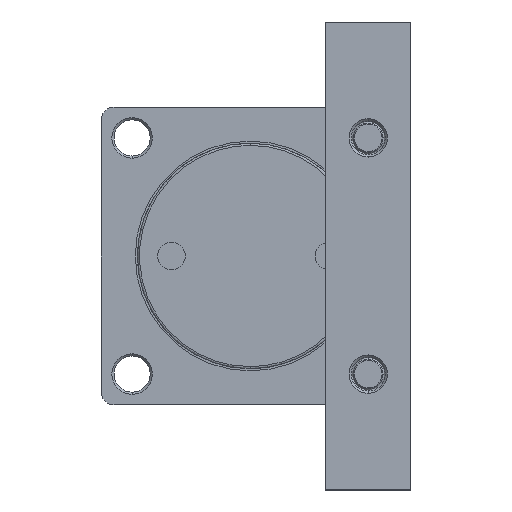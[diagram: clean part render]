
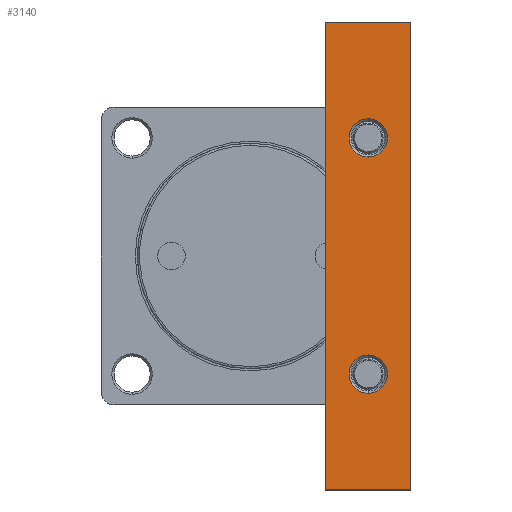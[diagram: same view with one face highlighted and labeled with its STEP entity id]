
A CAD part, left-side view. The second image highlights one B-rep face of the part: STEP entity #3140.
In plain terms, the highlighted planar face has unit normal (1, 0, 0).
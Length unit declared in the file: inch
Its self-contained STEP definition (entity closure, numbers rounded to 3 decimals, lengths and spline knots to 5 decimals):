
#58 = CARTESIAN_POINT ( 'NONE',  ( -2.61811, -2.18504, -1.83071 ) ) ;
#446 = VERTEX_POINT ( 'NONE', #11337 ) ;
#453 = ORIENTED_EDGE ( 'NONE', *, *, #5890, .T. ) ;
#1550 = CARTESIAN_POINT ( 'NONE',  ( -2.61811, -2.18504, 1.83071 ) ) ;
#2447 = VERTEX_POINT ( 'NONE', #58 ) ;
#2526 = AXIS2_PLACEMENT_3D ( 'NONE', #5507, #5439, #3763 ) ;
#2668 = CARTESIAN_POINT ( 'NONE',  ( -2.61811, -1.39764, 4.33071 ) ) ;
#2746 = FACE_BOUND ( 'NONE', #5233, .T. ) ;
#2847 = FACE_BOUND ( 'NONE', #5659, .T. ) ;
#2874 = FACE_OUTER_BOUND ( 'NONE', #5646, .T. ) ;
#2935 = DIRECTION ( 'NONE',  ( 0., 0., 1. ) ) ;
#3007 = CARTESIAN_POINT ( 'NONE',  ( -2.61811, -2.18504, -2.18504 ) ) ;
#3035 = CARTESIAN_POINT ( 'NONE',  ( -2.61811, -2.18504, -2.53937 ) ) ;
#3069 = CARTESIAN_POINT ( 'NONE',  ( -2.61811, -2.18504, 2.18504 ) ) ;
#3121 = DIRECTION ( 'NONE',  ( -1., 0., 0. ) ) ;
#3137 = DIRECTION ( 'NONE',  ( 0., 0., 1. ) ) ;
#3140 = ADVANCED_FACE ( 'NONE', ( #2874, #2746, #2847 ), #11733, .T. ) ;
#3341 = DIRECTION ( 'NONE',  ( 0., -1., 0. ) ) ;
#3552 = VERTEX_POINT ( 'NONE', #1550 ) ;
#3562 = CARTESIAN_POINT ( 'NONE',  ( -2.61811, -2.97244, 4.33071 ) ) ;
#3763 = DIRECTION ( 'NONE',  ( 0., 0., 1. ) ) ;
#3808 = CARTESIAN_POINT ( 'NONE',  ( -2.61811, -2.97244, 4.33071 ) ) ;
#3863 = DIRECTION ( 'NONE',  ( -1., 0., 0. ) ) ;
#4183 = ORIENTED_EDGE ( 'NONE', *, *, #6264, .T. ) ;
#4493 = DIRECTION ( 'NONE',  ( 0., 0., -1. ) ) ;
#4525 = CARTESIAN_POINT ( 'NONE',  ( -2.61811, -2.97244, 4.33071 ) ) ;
#4621 = CARTESIAN_POINT ( 'NONE',  ( -2.61811, -2.97244, -4.33071 ) ) ;
#4648 = AXIS2_PLACEMENT_3D ( 'NONE', #10476, #3863, #11735 ) ;
#5115 = EDGE_CURVE ( 'NONE', #9085, #2447, #7868, .T. ) ;
#5116 = ORIENTED_EDGE ( 'NONE', *, *, #5796, .T. ) ;
#5188 = EDGE_CURVE ( 'NONE', #3552, #446, #8397, .T. ) ;
#5233 = EDGE_LOOP ( 'NONE', ( #4183, #7692 ) ) ;
#5340 = VERTEX_POINT ( 'NONE', #10894 ) ;
#5439 = DIRECTION ( 'NONE',  ( -1., 0., 0. ) ) ;
#5507 = CARTESIAN_POINT ( 'NONE',  ( -2.61811, -2.18504, 2.18504 ) ) ;
#5638 = EDGE_CURVE ( 'NONE', #5820, #12492, #9182, .T. ) ;
#5646 = EDGE_LOOP ( 'NONE', ( #11673, #453, #5116, #13682 ) ) ;
#5659 = EDGE_LOOP ( 'NONE', ( #9638, #7307 ) ) ;
#5796 = EDGE_CURVE ( 'NONE', #6713, #5820, #9845, .T. ) ;
#5820 = VERTEX_POINT ( 'NONE', #4621 ) ;
#5890 = EDGE_CURVE ( 'NONE', #5340, #6713, #10175, .T. ) ;
#5994 = EDGE_CURVE ( 'NONE', #12492, #5340, #10374, .T. ) ;
#6264 = EDGE_CURVE ( 'NONE', #446, #3552, #11239, .T. ) ;
#6268 = DIRECTION ( 'NONE',  ( 1., 0., 0. ) ) ;
#6713 = VERTEX_POINT ( 'NONE', #9126 ) ;
#6727 = DIRECTION ( 'NONE',  ( 0., 1., 0. ) ) ;
#6741 = CARTESIAN_POINT ( 'NONE',  ( -2.61811, -2.97244, -4.33071 ) ) ;
#6934 = EDGE_CURVE ( 'NONE', #2447, #9085, #12373, .T. ) ;
#7024 = AXIS2_PLACEMENT_3D ( 'NONE', #3007, #3121, #3137 ) ;
#7307 = ORIENTED_EDGE ( 'NONE', *, *, #5115, .T. ) ;
#7510 = AXIS2_PLACEMENT_3D ( 'NONE', #3808, #6268, #9735 ) ;
#7692 = ORIENTED_EDGE ( 'NONE', *, *, #5188, .T. ) ;
#7868 = CIRCLE ( 'NONE', #7024, 0.35433 ) ;
#8397 = CIRCLE ( 'NONE', #12133, 0.35433 ) ;
#9085 = VERTEX_POINT ( 'NONE', #3035 ) ;
#9126 = CARTESIAN_POINT ( 'NONE',  ( -2.61811, -2.97244, 4.33071 ) ) ;
#9182 = LINE ( 'NONE', #6741, #9332 ) ;
#9332 = VECTOR ( 'NONE', #6727, 39.37008 ) ;
#9638 = ORIENTED_EDGE ( 'NONE', *, *, #6934, .T. ) ;
#9735 = DIRECTION ( 'NONE',  ( 0., 0., -1. ) ) ;
#9845 = LINE ( 'NONE', #4525, #9860 ) ;
#9860 = VECTOR ( 'NONE', #4493, 39.37008 ) ;
#10175 = LINE ( 'NONE', #3562, #10219 ) ;
#10219 = VECTOR ( 'NONE', #3341, 39.37008 ) ;
#10235 = VECTOR ( 'NONE', #2935, 39.37008 ) ;
#10374 = LINE ( 'NONE', #2668, #10235 ) ;
#10476 = CARTESIAN_POINT ( 'NONE',  ( -2.61811, -2.18504, -2.18504 ) ) ;
#10894 = CARTESIAN_POINT ( 'NONE',  ( -2.61811, -1.39764, 4.33071 ) ) ;
#10902 = DIRECTION ( 'NONE',  ( 0., 0., 1. ) ) ;
#11239 = CIRCLE ( 'NONE', #2526, 0.35433 ) ;
#11337 = CARTESIAN_POINT ( 'NONE',  ( -2.61811, -2.18504, 2.53937 ) ) ;
#11560 = CARTESIAN_POINT ( 'NONE',  ( -2.61811, -1.39764, -4.33071 ) ) ;
#11673 = ORIENTED_EDGE ( 'NONE', *, *, #5994, .T. ) ;
#11733 = PLANE ( 'NONE',  #7510 ) ;
#11735 = DIRECTION ( 'NONE',  ( 0., 0., 1. ) ) ;
#12133 = AXIS2_PLACEMENT_3D ( 'NONE', #3069, #12390, #10902 ) ;
#12373 = CIRCLE ( 'NONE', #4648, 0.35433 ) ;
#12390 = DIRECTION ( 'NONE',  ( -1., 0., 0. ) ) ;
#12492 = VERTEX_POINT ( 'NONE', #11560 ) ;
#13682 = ORIENTED_EDGE ( 'NONE', *, *, #5638, .T. ) ;
